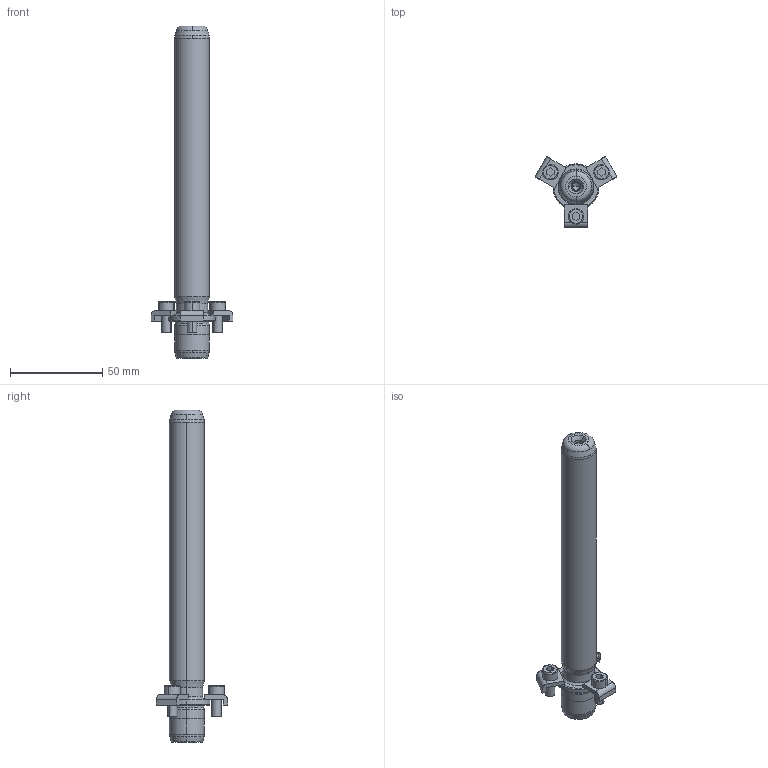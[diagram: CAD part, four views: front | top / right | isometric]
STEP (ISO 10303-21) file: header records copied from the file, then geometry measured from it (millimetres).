
FILE_DESCRIPTION((''),'2;1');
FILE_NAME('P21_019_160.stp','2008-12-18T10:52:55',(''),(''),'Mechanical Desktop 2009','Mechanical Desktop 2009',', , ');
FILE_SCHEMA(('CONFIG_CONTROL_DESIGN'));
Length unit declared in the file: millimetre
Products named in the file (2): Product; blmdl1
Assembly tree (1 placements, depth 2):
  Product
    blmdl1
Bounding box: 44.46 x 38.5 x 180 mm (x, y, z)
Volume: 52753.7 mm3; surface area: 14869.5 mm2
Topology: 7 solids, 7 shells, 163 faces, 399 edges, 257 vertices
Faces by surface type: plane 59, cylinder 44, cone 32, bspline 18, torus 10
Entity records: 5605 total; most frequent: CARTESIAN_POINT 1537, DIRECTION 900, ORIENTED_EDGE 790, EDGE_CURVE 395, AXIS2_PLACEMENT_3D 358, VERTEX_POINT 257, CIRCLE 211, VECTOR 184
